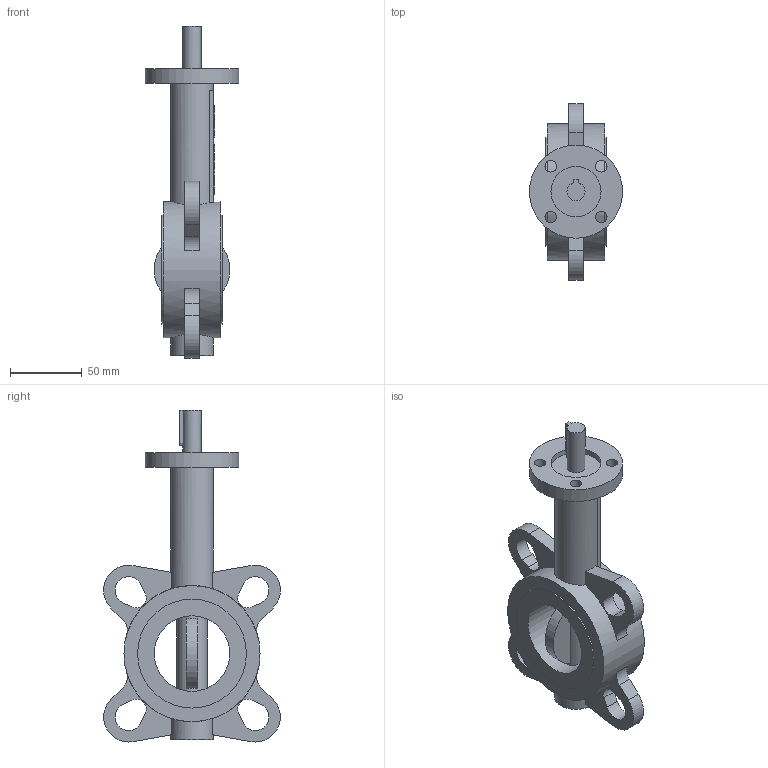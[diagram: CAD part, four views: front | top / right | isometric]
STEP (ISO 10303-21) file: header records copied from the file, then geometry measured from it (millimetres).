
FILE_DESCRIPTION(('STEP AP203'), '1');
FILE_NAME('Çàòâîð 017W.Z(ñòàëü) DN50 PN10_16 áåç èñï. ìåõ-ìà', '', ('UNSPECIFIED'), ('UNSPECIFIED'), 'ASCON STEP Converter 1.6', 'ASCON Math Kernel', '');
FILE_SCHEMA(('CONFIG_CONTROL_DESIGN'));
Length unit declared in the file: millimetre
Bounding box: 65 x 123.33 x 231.69 mm (x, y, z)
Volume: 363837.9 mm3; surface area: 65322.4 mm2
Topology: 1 solids, 1 shells, 588 faces, 1682 edges, 1121 vertices
Faces by surface type: cylinder 399, plane 189
Full cylindrical faces by diameter (mm): 8 x4, 12.6 x1, 21 x1, 30 x2, 35 x1, 52.8 x1, 65 x1, 76 x2, 95 x1
Entity records: 24896 total; most frequent: CARTESIAN_POINT 4023, DIRECTION 3631, ORIENTED_EDGE 3336, EDGE_CURVE 1668, AXIS2_PLACEMENT_3D 1393, VERTEX_POINT 1121, LINE 845, VECTOR 845
